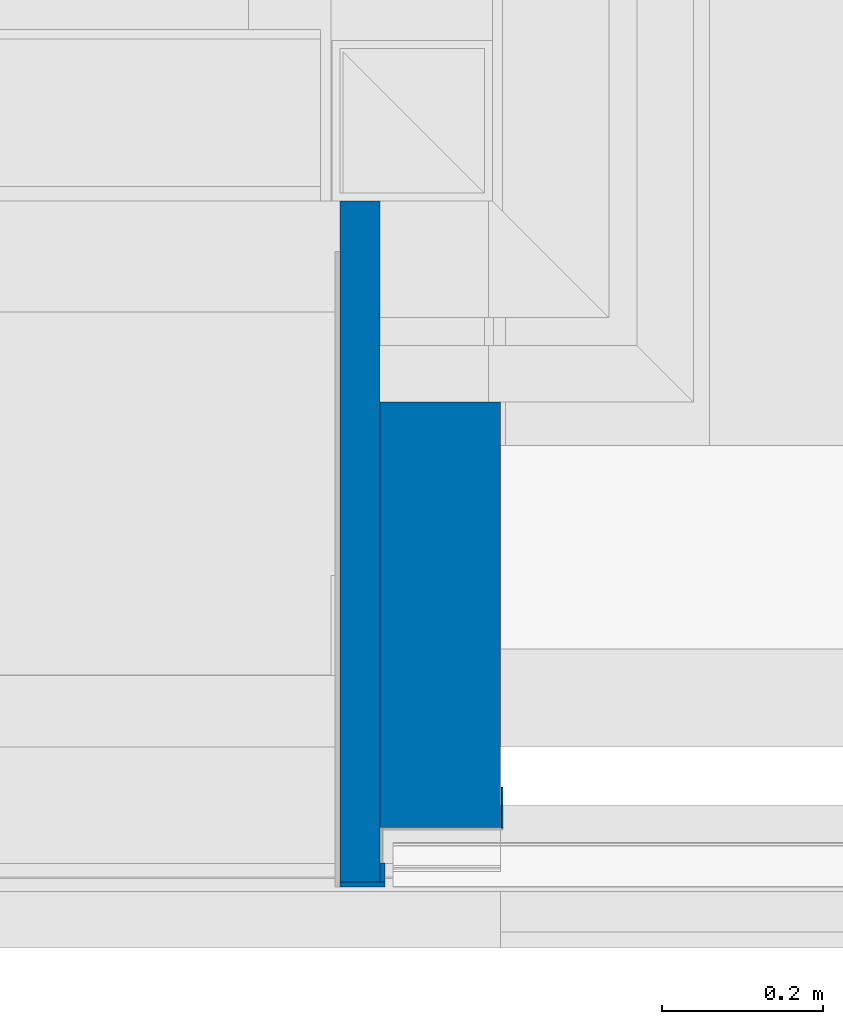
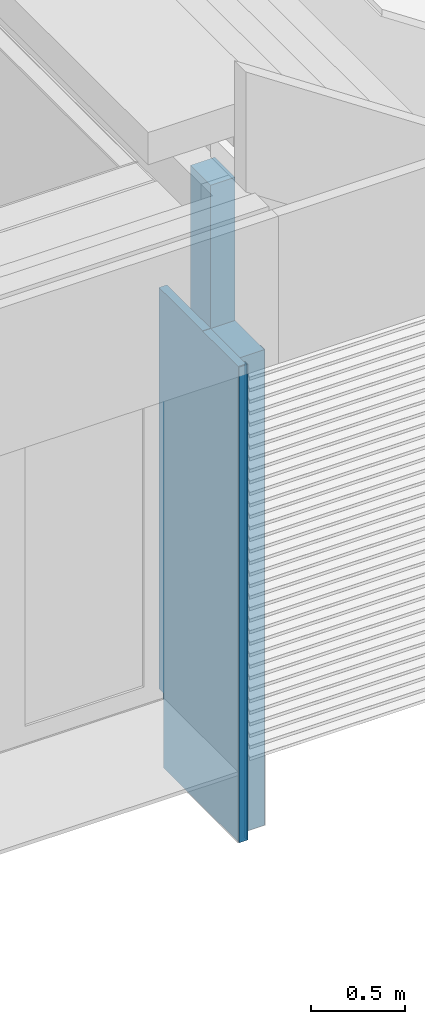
# One storey, part 21 of 165: 5 walls.
"""IFC2X3 building model written with IfcOpenShell, lengths in millimetres."""

from ifc_helpers import new_model, entity, si_unit, converted_unit, derived_unit, money_unit, direction, frame, origin_with_axes, place, context, subcontext, project, spatial, faceted_brep, material, type_object, element, save


model = new_model("IFC2X3")

# Units and contexts
model_context = context("Model", 3, precision=0.01, world=origin_with_axes(), true_north=direction((0.0, 1.0)))
body_context = subcontext(model_context, "Body", "Model", "MODEL_VIEW")
ifc_project = project(units=[si_unit("LENGTHUNIT", "METRE", prefix="MILLI"), si_unit("AREAUNIT", "SQUARE_METRE"), si_unit("VOLUMEUNIT", "CUBIC_METRE"), converted_unit("PLANEANGLEUNIT", "DEGREE", entity("IfcPlaneAngleMeasure", 0.0174532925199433), si_unit("PLANEANGLEUNIT", "RADIAN"), dimensions=[0, 0, 0, 0, 0, 0, 0]), money_unit("EUR"), converted_unit("TIMEUNIT", "Year", entity("IfcTimeMeasure", 31556926.0), si_unit("TIMEUNIT", "SECOND"), dimensions=[0, 0, 1, 0, 0, 0, 0]), si_unit("MASSUNIT", "GRAM", prefix="KILO"), si_unit("THERMODYNAMICTEMPERATUREUNIT", "DEGREE_CELSIUS"), si_unit("LUMINOUSINTENSITYUNIT", "LUMEN"), si_unit("ENERGYUNIT", "JOULE", prefix="MEGA"), derived_unit("THERMALCONDUCTANCEUNIT", [(si_unit("POWERUNIT", "WATT"), 1), (si_unit("LENGTHUNIT", "METRE"), -1), (si_unit("THERMODYNAMICTEMPERATUREUNIT", "KELVIN"), -1)]), derived_unit("SPECIFICHEATCAPACITYUNIT", [(si_unit("ENERGYUNIT", "JOULE"), 1), (si_unit("MASSUNIT", "GRAM", prefix="KILO"), -1), (si_unit("THERMODYNAMICTEMPERATUREUNIT", "KELVIN"), -1)]), derived_unit("MASSDENSITYUNIT", [(si_unit("MASSUNIT", "GRAM", prefix="KILO"), 1), (si_unit("VOLUMEUNIT", "CUBIC_METRE"), -1)])], contexts=[model_context])

# Site, building, storey
site_placement = place(None, origin_with_axes())
site = spatial("IfcSite", under=ifc_project, at=site_placement, Name="Site", CompositionType="ELEMENT")
building_placement = place(site_placement, origin_with_axes())
building = spatial("IfcBuilding", under=site, at=building_placement, Name="Naam gebouw", CompositionType="ELEMENT")
storey_placement = place(building_placement, origin_with_axes())
storey = spatial("IfcBuildingStorey", under=building, at=storey_placement, Name="Begane grond", CompositionType="ELEMENT", Elevation=0.0)

# Walls
ifc_material_1 = material(Name="Metaal - Staal C")
wall_type_1 = type_object("IfcWallType", Name="Metaal - Staal C 6", PredefinedType="NOTDEFINED")
wall_1_placement = place(storey_placement, frame((11354.00000000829, -174.0001676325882, -485.0), z_axis=(0.0, 0.0, 1.0), x_axis=(1.0, 0.0, 0.0)))
element("IfcWall", 1, at=wall_1_placement, inside=storey, type_object=wall_type_1, material=ifc_material_1, Name="21_Wand-x", context=body_context, shape_type="Brep", body=[
    faceted_brep([(62.00000000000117, 6.000000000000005, 0.0), (62.00000000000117, 0.0, 0.0), (6.000000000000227, 0.0, 0.0), (6.000000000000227, 6.000000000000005, 0.0), (62.00000000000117, 6.0000000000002, 3095.0), (62.00000000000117, 0.0, 3095.0), (6.000000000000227, 0.0, 3095.0), (6.000000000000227, 6.0000000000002, 3095.0)], [[[0, 1, 2, 3]], [[1, 0, 4, 5]], [[1, 5, 6, 2]], [[7, 3, 2, 6]], [[4, 0, 3, 7]], [[5, 4, 7, 6]]]),
])
wall_2_placement = place(storey_placement, frame((11416.00000000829, -174.0001676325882, -485.0), z_axis=(0.0, 0.0, 1.0), x_axis=(0.0, 1.0, 0.0)))
element("IfcWall", 2, at=wall_2_placement, inside=storey, type_object=wall_type_1, material=ifc_material_1, Name="21_Wand-x", context=body_context, shape_type="Brep", body=[
    faceted_brep([(6.000000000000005, 6.000000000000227, 0.0), (30.00000000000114, 6.000000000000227, 0.0), (30.00000000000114, 0.0, 0.0), (6.000000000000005, 0.0, 0.0), (6.000000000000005, 6.000000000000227, 3095.0), (30.00000000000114, 6.000000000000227, 3095.0), (30.00000000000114, 0.0, 3095.0), (6.000000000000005, 0.0, 3095.0)], [[[0, 1, 2, 3]], [[4, 5, 1, 0]], [[2, 1, 5, 6]], [[3, 2, 6, 7]], [[4, 0, 3, 7]], [[7, 6, 5, 4]]]),
])
wall_type_2 = type_object("IfcWallType", Name="Metaal - Staal C 2", PredefinedType="NOTDEFINED")
wall_3_placement = place(storey_placement, frame((11561.00000000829, -101.0000000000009, -485.0), z_axis=(0.0, 0.0, 1.0), x_axis=(0.0, 1.0, 0.0)))
element("IfcWall", 3, at=wall_3_placement, inside=storey, type_object=wall_type_2, material=ifc_material_1, Name="21_Wand-x", context=body_context, shape_type="Brep", body=[
    faceted_brep([(0.0, -2.000000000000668, 3095.0), (50.99999999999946, -2.000000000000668, 3095.0), (50.99999999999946, 0.0, 3095.0), (0.0, 0.0, 3095.0), (0.0, -2.000000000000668, 0.0), (50.99999999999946, -2.000000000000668, 0.0), (50.99999999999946, 0.0, 0.0), (0.0, 0.0, 0.0)], [[[0, 1, 2, 3]], [[4, 5, 1, 0]], [[2, 1, 5, 6]], [[3, 2, 6, 7]], [[4, 0, 3, 7]], [[7, 6, 5, 4]]]),
])
ifc_material_2 = material(Name="Steen - Kalkzandsteen")
wall_type_3 = type_object("IfcWallType", Name="Steen - Kalkzandsteen 150", PredefinedType="NOTDEFINED")
wall_4_placement = place(storey_placement, frame((11560.00000000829, 430.0000000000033, -485.0), z_axis=(0.0, 0.0, 1.0), x_axis=(0.0, -1.0, 0.0)))
element("IfcWall", 4, at=wall_4_placement, inside=storey, type_object=wall_type_3, material=ifc_material_2, Name="21_Wand-x", context=body_context, shape_type="Brep", body=[
    faceted_brep([(216.0000000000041, 0.0, 3095.0), (216.0000000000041, -150.0000000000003, 3095.0), (530.0000000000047, -150.0000000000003, 3095.0), (530.0000000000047, 0.0, 3095.0), (216.0000000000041, 0.0, 4026.493341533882), (216.0000000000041, -150.0000000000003, 4026.493341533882), (530.0000000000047, -150.0000000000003, 0.0), (0.0, -150.0000000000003, 4026.493341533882), (0.0, -150.0000000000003, 0.0), (530.0000000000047, 0.0, 0.0), (0.0, 0.0, 0.0), (0.0, 0.0, 4026.493341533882)], [[[0, 1, 2, 3]], [[1, 0, 4, 5]], [[6, 2, 1, 5, 7, 8]], [[9, 3, 2, 6]], [[0, 3, 9, 10, 11, 4]], [[7, 5, 4, 11]], [[10, 8, 7, 11]], [[8, 10, 9, 6]]]),
])
ifc_material_3 = material(Name="ALG - ISOLATIE")
wall_type_4 = type_object("IfcWallType", Name="ALG - ISOLATIE 50", PredefinedType="NOTDEFINED")
wall_5_placement = place(storey_placement, frame((11410.00000000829, 679.9999999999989, -485.0), z_axis=(0.0, 0.0, 1.0), x_axis=(0.0, -1.0, 0.0)))
element("IfcWall", 5, at=wall_5_placement, inside=storey, type_object=wall_type_4, material=ifc_material_3, Name="21_Wand-x", context=body_context, shape_type="Brep", body=[
    faceted_brep([(848.0001676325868, 0.0, 0.0), (49.99999999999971, 0.0, 0.0), (49.99999999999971, 0.0, 485.0), (0.0, 0.0, 485.0), (0.0, 0.0, 3096.99999613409), (465.9999999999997, 0.0, 3096.99999613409), (465.9999999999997, 0.0, 3095.0), (824.9999999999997, 0.0, 3095.0), (824.9999999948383, 0.0, 3096.99999613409), (848.0001676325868, 0.0, 3096.99999613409), (848.0001676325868, -50.00000000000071, 0.0), (49.99999999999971, -50.00000000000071, 0.0), (49.99999999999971, -50.00000000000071, 485.0), (0.0, -50.00000000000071, 485.0), (0.0, -50.00000000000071, 3096.99999613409), (465.9999999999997, -50.00000000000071, 3096.99999613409), (465.9999999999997, -50.00000000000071, 3095.0), (824.9999999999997, -50.00000000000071, 3095.0), (824.9999999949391, -50.00000000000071, 3096.99999613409), (848.0001676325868, -50.00000000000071, 3096.99999613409)], [[[0, 1, 2, 3, 4, 5, 6, 7, 8, 9]], [[10, 11, 1, 0]], [[12, 2, 1, 11]], [[12, 13, 3, 2]], [[4, 3, 13, 14]], [[14, 15, 5, 4]], [[16, 6, 5, 15]], [[7, 6, 16, 17]], [[17, 18, 8, 7]], [[9, 8, 18, 19]], [[10, 0, 9, 19]], [[13, 12, 11, 10, 19, 18, 17, 16, 15, 14]]]),
])

save(model, "model.ifc")
